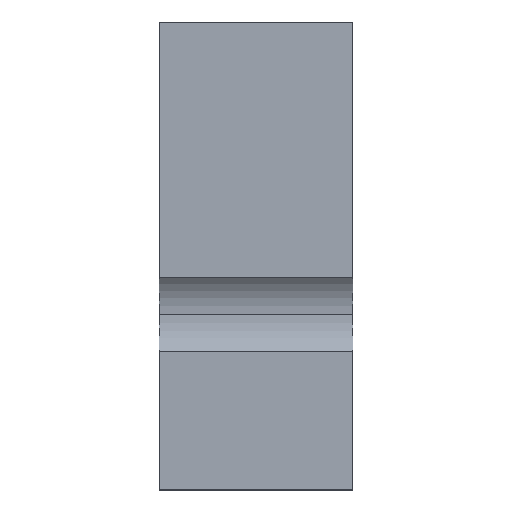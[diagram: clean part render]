
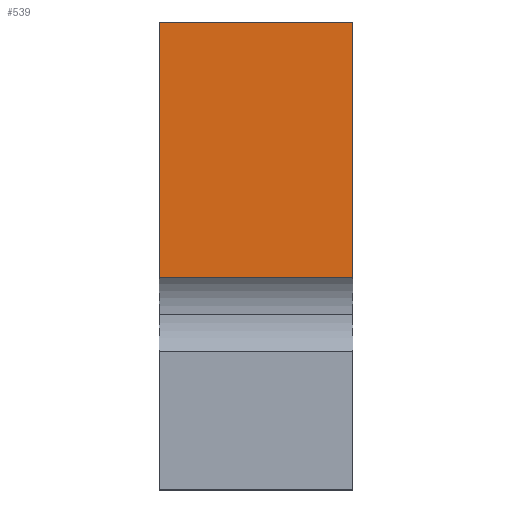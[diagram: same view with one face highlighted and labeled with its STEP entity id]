
A CAD part, top view. The second image highlights one B-rep face of the part: STEP entity #539.
In plain terms, the highlighted planar face has unit normal (0, 0, 1).
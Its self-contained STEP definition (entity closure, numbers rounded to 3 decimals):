
#352 = VERTEX_POINT('',#353);
#353 = CARTESIAN_POINT('',(15.5,-34.368,-10.375));
#361 = PLANE('',#362);
#362 = AXIS2_PLACEMENT_3D('',#363,#364,#365);
#363 = CARTESIAN_POINT('',(15.5,-38.,-10.625));
#364 = DIRECTION('',(1.,0.,-0.));
#365 = DIRECTION('',(0.,0.,1.));
#373 = CYLINDRICAL_SURFACE('',#374,0.925);
#374 = AXIS2_PLACEMENT_3D('',#375,#376,#377);
#375 = CARTESIAN_POINT('',(15.,-35.,-9.7));
#376 = DIRECTION('',(1.,0.,0.));
#377 = DIRECTION('',(-0.,0.,1.));
#414 = VERTEX_POINT('',#415);
#415 = CARTESIAN_POINT('',(15.5,-30.,-10.375));
#429 = PLANE('',#430);
#430 = AXIS2_PLACEMENT_3D('',#431,#432,#433);
#431 = CARTESIAN_POINT('',(15.5,-30.,-10.625));
#432 = DIRECTION('',(-0.,1.,0.));
#433 = DIRECTION('',(0.,0.,1.));
#441 = EDGE_CURVE('',#352,#414,#442,.T.);
#442 = SURFACE_CURVE('',#443,(#447,#454),.PCURVE_S1.);
#443 = LINE('',#444,#445);
#444 = CARTESIAN_POINT('',(15.5,-38.,-10.375));
#445 = VECTOR('',#446,1.);
#446 = DIRECTION('',(-0.,1.,0.));
#447 = PCURVE('',#361,#448);
#448 = DEFINITIONAL_REPRESENTATION('',(#449),#453);
#449 = LINE('',#450,#451);
#450 = CARTESIAN_POINT('',(0.25,0.));
#451 = VECTOR('',#452,1.);
#452 = DIRECTION('',(0.,-1.));
#453 = ( GEOMETRIC_REPRESENTATION_CONTEXT(2) 
PARAMETRIC_REPRESENTATION_CONTEXT() REPRESENTATION_CONTEXT('2D SPACE',''
  ) );
#454 = PCURVE('',#455,#460);
#455 = PLANE('',#456);
#456 = AXIS2_PLACEMENT_3D('',#457,#458,#459);
#457 = CARTESIAN_POINT('',(15.5,-38.,-10.375));
#458 = DIRECTION('',(0.,0.,1.));
#459 = DIRECTION('',(1.,0.,-0.));
#460 = DEFINITIONAL_REPRESENTATION('',(#461),#465);
#461 = LINE('',#462,#463);
#462 = CARTESIAN_POINT('',(0.,0.));
#463 = VECTOR('',#464,1.);
#464 = DIRECTION('',(0.,1.));
#465 = ( GEOMETRIC_REPRESENTATION_CONTEXT(2) 
PARAMETRIC_REPRESENTATION_CONTEXT() REPRESENTATION_CONTEXT('2D SPACE',''
  ) );
#492 = EDGE_CURVE('',#352,#493,#495,.T.);
#493 = VERTEX_POINT('',#494);
#494 = CARTESIAN_POINT('',(18.8,-34.368,-10.375));
#495 = SURFACE_CURVE('',#496,(#500,#506),.PCURVE_S1.);
#496 = LINE('',#497,#498);
#497 = CARTESIAN_POINT('',(15.,-34.368,-10.375));
#498 = VECTOR('',#499,1.);
#499 = DIRECTION('',(1.,0.,0.));
#500 = PCURVE('',#373,#501);
#501 = DEFINITIONAL_REPRESENTATION('',(#502),#505);
#502 = B_SPLINE_CURVE_WITH_KNOTS('',1,(#503,#504),.UNSPECIFIED.,.F.,.F.,
  (2,2),(0.17,4.13),.PIECEWISE_BEZIER_KNOTS.);
#503 = CARTESIAN_POINT('',(3.894,0.17));
#504 = CARTESIAN_POINT('',(3.894,4.13));
#505 = ( GEOMETRIC_REPRESENTATION_CONTEXT(2) 
PARAMETRIC_REPRESENTATION_CONTEXT() REPRESENTATION_CONTEXT('2D SPACE',''
  ) );
#506 = PCURVE('',#455,#507);
#507 = DEFINITIONAL_REPRESENTATION('',(#508),#511);
#508 = B_SPLINE_CURVE_WITH_KNOTS('',1,(#509,#510),.UNSPECIFIED.,.F.,.F.,
  (2,2),(0.17,4.13),.PIECEWISE_BEZIER_KNOTS.);
#509 = CARTESIAN_POINT('',(-0.33,3.632));
#510 = CARTESIAN_POINT('',(3.63,3.632));
#511 = ( GEOMETRIC_REPRESENTATION_CONTEXT(2) 
PARAMETRIC_REPRESENTATION_CONTEXT() REPRESENTATION_CONTEXT('2D SPACE',''
  ) );
#528 = PLANE('',#529);
#529 = AXIS2_PLACEMENT_3D('',#530,#531,#532);
#530 = CARTESIAN_POINT('',(18.8,-38.,-10.625));
#531 = DIRECTION('',(1.,0.,-0.));
#532 = DIRECTION('',(0.,0.,1.));
#539 = ADVANCED_FACE('',(#540),#455,.T.);
#540 = FACE_BOUND('',#541,.T.);
#541 = EDGE_LOOP('',(#542,#543,#544,#567));
#542 = ORIENTED_EDGE('',*,*,#441,.F.);
#543 = ORIENTED_EDGE('',*,*,#492,.T.);
#544 = ORIENTED_EDGE('',*,*,#545,.T.);
#545 = EDGE_CURVE('',#493,#546,#548,.T.);
#546 = VERTEX_POINT('',#547);
#547 = CARTESIAN_POINT('',(18.8,-30.,-10.375));
#548 = SURFACE_CURVE('',#549,(#553,#560),.PCURVE_S1.);
#549 = LINE('',#550,#551);
#550 = CARTESIAN_POINT('',(18.8,-38.,-10.375));
#551 = VECTOR('',#552,1.);
#552 = DIRECTION('',(-0.,1.,0.));
#553 = PCURVE('',#455,#554);
#554 = DEFINITIONAL_REPRESENTATION('',(#555),#559);
#555 = LINE('',#556,#557);
#556 = CARTESIAN_POINT('',(3.3,0.));
#557 = VECTOR('',#558,1.);
#558 = DIRECTION('',(0.,1.));
#559 = ( GEOMETRIC_REPRESENTATION_CONTEXT(2) 
PARAMETRIC_REPRESENTATION_CONTEXT() REPRESENTATION_CONTEXT('2D SPACE',''
  ) );
#560 = PCURVE('',#528,#561);
#561 = DEFINITIONAL_REPRESENTATION('',(#562),#566);
#562 = LINE('',#563,#564);
#563 = CARTESIAN_POINT('',(0.25,0.));
#564 = VECTOR('',#565,1.);
#565 = DIRECTION('',(0.,-1.));
#566 = ( GEOMETRIC_REPRESENTATION_CONTEXT(2) 
PARAMETRIC_REPRESENTATION_CONTEXT() REPRESENTATION_CONTEXT('2D SPACE',''
  ) );
#567 = ORIENTED_EDGE('',*,*,#568,.F.);
#568 = EDGE_CURVE('',#414,#546,#569,.T.);
#569 = SURFACE_CURVE('',#570,(#574,#581),.PCURVE_S1.);
#570 = LINE('',#571,#572);
#571 = CARTESIAN_POINT('',(15.5,-30.,-10.375));
#572 = VECTOR('',#573,1.);
#573 = DIRECTION('',(1.,0.,-0.));
#574 = PCURVE('',#455,#575);
#575 = DEFINITIONAL_REPRESENTATION('',(#576),#580);
#576 = LINE('',#577,#578);
#577 = CARTESIAN_POINT('',(0.,8.));
#578 = VECTOR('',#579,1.);
#579 = DIRECTION('',(1.,0.));
#580 = ( GEOMETRIC_REPRESENTATION_CONTEXT(2) 
PARAMETRIC_REPRESENTATION_CONTEXT() REPRESENTATION_CONTEXT('2D SPACE',''
  ) );
#581 = PCURVE('',#429,#582);
#582 = DEFINITIONAL_REPRESENTATION('',(#583),#587);
#583 = LINE('',#584,#585);
#584 = CARTESIAN_POINT('',(0.25,0.));
#585 = VECTOR('',#586,1.);
#586 = DIRECTION('',(0.,1.));
#587 = ( GEOMETRIC_REPRESENTATION_CONTEXT(2) 
PARAMETRIC_REPRESENTATION_CONTEXT() REPRESENTATION_CONTEXT('2D SPACE',''
  ) );
